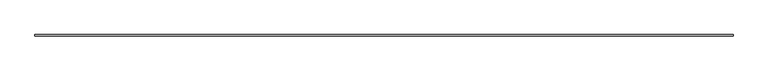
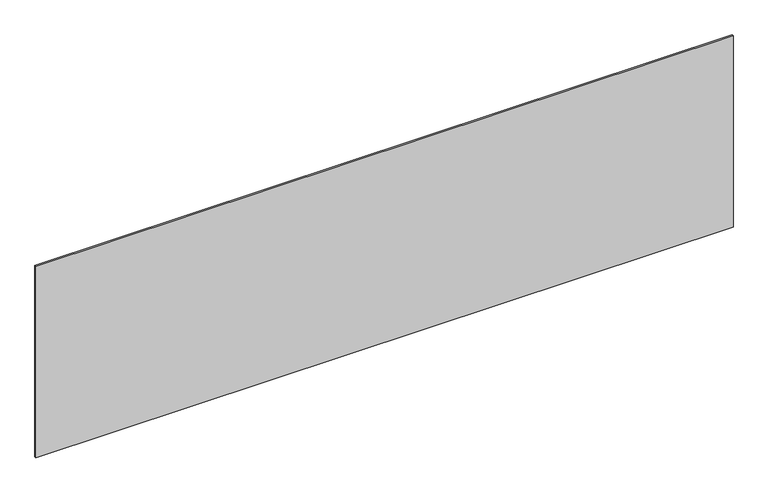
"""IFC4 building model written with IfcOpenShell, lengths in millimetres: plate geometry, システム パネル : 標準."""

import ifcopenshell
import ifcopenshell.guid

model = None  # the IFC model being written
_history = None  # IfcOwnerHistory: only IFC2X3 demands one
_inside = {}  # id of a spatial element -> (the spatial element, [elements in it])
_under = {}  # id of a project, library or spatial element -> (it, [spatial elements below it])
_declared = {}  # id of a project -> (the project, [libraries it declares])
_typed = {}  # id of a type object -> (the type object, [elements of that type])
_made_of = {}  # id of a material, layer set ... -> (it, [elements and type objects made of it])


def new_model(schema):
    """Start an empty IFC model of exactly this schema.

    Asked for "IFC4X3", IfcOpenShell would pick the latest addendum, in which some entities
    have other attributes; the version numbers below select the first issue.
    IFC2X3 requires an IfcOwnerHistory on every rooted entity: one is made here for all.
    """
    global model, _history
    if schema == "IFC4X3":
        model = ifcopenshell.file(schema_version=(4, 3, 0, 0))
    else:
        model = ifcopenshell.file(schema=schema)
    _inside.clear()
    _under.clear()
    _declared.clear()
    _typed.clear()
    _made_of.clear()
    _history = None
    if model.schema == "IFC2X3":
        org = make("IfcOrganization", Name="unknown")
        user = make(
            "IfcPersonAndOrganization",
            ThePerson=make("IfcPerson", FamilyName="unknown"),
            TheOrganization=org,
        )
        app = make(
            "IfcApplication",
            ApplicationDeveloper=org,
            Version="unknown",
            ApplicationFullName="unknown",
            ApplicationIdentifier="unknown",
        )
        _history = make(
            "IfcOwnerHistory",
            OwningUser=user,
            OwningApplication=app,
            ChangeAction="ADDED",
            CreationDate=0,
        )
    return model


def make(cls, **values):
    """One entity of the class cls with the attributes given. An attribute that is None is left unset."""
    return model.create_entity(
        cls, **{name: value for name, value in values.items() if value is not None}
    )


def rooted(cls, **values):
    """An entity with a GlobalId (a new one), such as an element, a storey or a relation."""
    return make(cls, GlobalId=ifcopenshell.guid.new(), OwnerHistory=_history, **values)


def si_unit(unit_type, name, prefix=None):
    """IfcSIUnit, for example si_unit("LENGTHUNIT", "METRE", prefix="MILLI")."""
    return make("IfcSIUnit", UnitType=unit_type, Prefix=prefix, Name=name)


def assignment(units):
    """IfcUnitAssignment: the units of a project."""
    return None if units is None else make("IfcUnitAssignment", Units=units)


def point(xyz):
    """IfcCartesianPoint."""
    return None if xyz is None else make("IfcCartesianPoint", Coordinates=xyz)


def direction(xyz):
    """IfcDirection."""
    return None if xyz is None else make("IfcDirection", DirectionRatios=xyz)


def frame(location, z_axis=None, x_axis=None):
    """IfcAxis2Placement3D, a coordinate frame: its origin and axes. An axis left out is left unset."""
    return make(
        "IfcAxis2Placement3D",
        Location=point(location),
        Axis=direction(z_axis),
        RefDirection=direction(x_axis),
    )


def origin():
    """The frame at (0, 0, 0) with its axes left unset."""
    return frame((0.0, 0.0, 0.0))


def origin_with_axes():
    """The frame at (0, 0, 0) with the z axis (0, 0, 1) and the x axis (1, 0, 0) written out."""
    return frame((0.0, 0.0, 0.0), z_axis=(0.0, 0.0, 1.0), x_axis=(1.0, 0.0, 0.0))


def place(relative_to, where):
    """IfcLocalPlacement: puts the frame where relative to a parent placement (None: the world)."""
    return make(
        "IfcLocalPlacement", PlacementRelTo=relative_to, RelativePlacement=where
    )


def context(
    kind, dimensions, precision=None, world=None, true_north=None, identifier=None
):
    """IfcGeometricRepresentationContext, for example the 3D "Model" context."""
    return make(
        "IfcGeometricRepresentationContext",
        ContextIdentifier=identifier,
        ContextType=kind,
        CoordinateSpaceDimension=dimensions,
        Precision=precision,
        WorldCoordinateSystem=world,
        TrueNorth=true_north,
    )


def project(units=None, contexts=None):
    """IfcProject with its units and contexts."""
    return rooted(
        "IfcProject",
        Name="project",
        RepresentationContexts=contexts,
        UnitsInContext=assignment(units),
    )


def spatial(cls, under=None, at=None, **own):
    """A site, building, storey or space (cls), placed at a placement, below another one or the project."""
    s = rooted(cls, ObjectPlacement=at, **own)
    if under is not None:
        _under.setdefault(under.id(), (under, []))[1].append(s)
    return s


def polyline(points):
    """IfcPolyline through the points."""
    return make("IfcPolyline", Points=[point(p) for p in points])


def outline(outer, holes=None, kind="AREA"):
    """IfcArbitraryClosedProfileDef: a profile drawn as a closed curve; with holes, ...WithVoids."""
    if holes is None:
        return make("IfcArbitraryClosedProfileDef", ProfileType=kind, OuterCurve=outer)
    return make(
        "IfcArbitraryProfileDefWithVoids",
        ProfileType=kind,
        OuterCurve=outer,
        InnerCurves=holes,
    )


def extrude(swept, where, along, depth):
    """IfcExtrudedAreaSolid: the profile swept, set in the frame where, extruded along a direction by depth."""
    return make(
        "IfcExtrudedAreaSolid",
        SweptArea=swept,
        Position=where,
        ExtrudedDirection=direction(along),
        Depth=depth,
    )


def shape(context_of_items, identifier, shape_type, items):
    """IfcShapeRepresentation: the items that make up one representation, for example the "Body"."""
    return make(
        "IfcShapeRepresentation",
        ContextOfItems=context_of_items,
        RepresentationIdentifier=identifier,
        RepresentationType=shape_type,
        Items=items,
    )


def source(mapping_origin, context_of_items, identifier, shape_type, items):
    """IfcRepresentationMap: a shape defined once, which mapped items show again and again."""
    return make(
        "IfcRepresentationMap",
        MappingOrigin=mapping_origin,
        MappedRepresentation=shape(context_of_items, identifier, shape_type, items),
    )


def transform(
    local_origin,
    x_axis=None,
    y_axis=None,
    z_axis=None,
    scale=None,
    scale2=None,
    scale3=None,
    uniform=True,
):
    """IfcCartesianTransformationOperator3D, or its non-uniform kind. x_axis, y_axis, z_axis: its Axis1, 2, 3."""
    if uniform:
        return make(
            "IfcCartesianTransformationOperator3D",
            Axis1=direction(x_axis),
            Axis2=direction(y_axis),
            LocalOrigin=point(local_origin),
            Scale=scale,
            Axis3=direction(z_axis),
        )
    return make(
        "IfcCartesianTransformationOperator3DnonUniform",
        Axis1=direction(x_axis),
        Axis2=direction(y_axis),
        LocalOrigin=point(local_origin),
        Scale=scale,
        Axis3=direction(z_axis),
        Scale2=scale2,
        Scale3=scale3,
    )


def mapped(mapping_source, mapping_target):
    """IfcMappedItem: shows the shape of a source again, moved by a transform."""
    return make(
        "IfcMappedItem", MappingSource=mapping_source, MappingTarget=mapping_target
    )


def made_of(thing, what):
    """Note that an element or type object is made of a material, layer set ...; save() writes the relation."""
    if what is not None:
        _made_of.setdefault(what.id(), (what, []))[1].append(thing)
    return thing


def element(
    cls,
    number,
    at=None,
    inside=None,
    cuts=None,
    type_object=None,
    material=None,
    context=None,
    identifier="Body",
    shape_type=None,
    held_by="IfcProductDefinitionShape",
    body=None,
    shapes=None,
    **own,
):
    """One element of the class cls, such as IfcWall. Its Tag is "e" and its number.

    at: its placement. inside: the storey or other place that contains it. cuts: it is an
    opening in that element (IfcRelVoidsElement). A single representation is given by context,
    identifier, shape_type and body (its items); several are given by shapes. held_by: the class
    of the entity that holds the representations. save() writes the other relations.
    """
    e = rooted(cls, Tag="e%d" % number, ObjectPlacement=at, **own)
    if body is not None:
        shapes = [shape(context, identifier, shape_type, body)]
    if shapes is not None:
        e.Representation = make(held_by, Representations=shapes)
    if inside is not None:
        _inside.setdefault(inside.id(), (inside, []))[1].append(e)
    if cuts is not None:
        rooted(
            "IfcRelVoidsElement", RelatingBuildingElement=cuts, RelatedOpeningElement=e
        )
    if type_object is not None:
        _typed.setdefault(type_object.id(), (type_object, []))[1].append(e)
    return made_of(e, material)


def aggregate(whole, parts):
    """IfcRelAggregates: a whole, such as a stair, and the parts it consists of."""
    return rooted("IfcRelAggregates", RelatingObject=whole, RelatedObjects=parts)


def save(model, path):
    """Write the relations noted so far, then the file.

    IfcRelAggregates (storeys below a building ...), IfcRelContainedInSpatialStructure (elements
    in a storey), IfcRelDefinesByType, IfcRelAssociatesMaterial and IfcRelDeclares: one each for
    every whole, place, type object, material and project.
    """
    for whole, parts in _under.values():
        aggregate(whole, parts)
    for where, things in _inside.values():
        rooted(
            "IfcRelContainedInSpatialStructure",
            RelatedElements=things,
            RelatingStructure=where,
        )
    for kind, things in _typed.values():
        rooted("IfcRelDefinesByType", RelatedObjects=things, RelatingType=kind)
    for what, things in _made_of.values():
        rooted("IfcRelAssociatesMaterial", RelatedObjects=things, RelatingMaterial=what)
    for by, libraries in _declared.values():
        rooted("IfcRelDeclares", RelatingContext=by, RelatedDefinitions=libraries)
    model.write(path)


def plate_022f3ca5(model_context):
    return source(origin(), model_context, "Body", "SweptSolid", [
        extrude(outline(polyline([(2281.6666667, -5.0), (-2281.6666667, -5.0), (-2281.6666667, 5.0), (2281.6666667, 5.0), (2281.6666667, -5.0)])), origin_with_axes(), (0.0, 0.0, 1.0), 1325.4316357),
    ])


if __name__ == "__main__":
    model = new_model("IFC4")
    model_context = context("Model", 3, world=origin())
    ifc_project = project(units=[si_unit("LENGTHUNIT", "METRE", prefix="MILLI")], contexts=[model_context])
    site = spatial("IfcSite", under=ifc_project)
    building = spatial("IfcBuilding", under=site)
    placement = place(None, origin())
    plate_shape = plate_022f3ca5(model_context)
    element("IfcPlate", 1, ObjectType="システム パネル : 標準", at=placement, inside=building, context=model_context, shape_type="MappedRepresentation", body=[
        mapped(plate_shape, transform((0.0, 0.0, 0.0), x_axis=(1.0, 0.0, 0.0), y_axis=(0.0, 1.0, 0.0), z_axis=(0.0, 0.0, 1.0))),
    ])
    save(model, "model.ifc")
